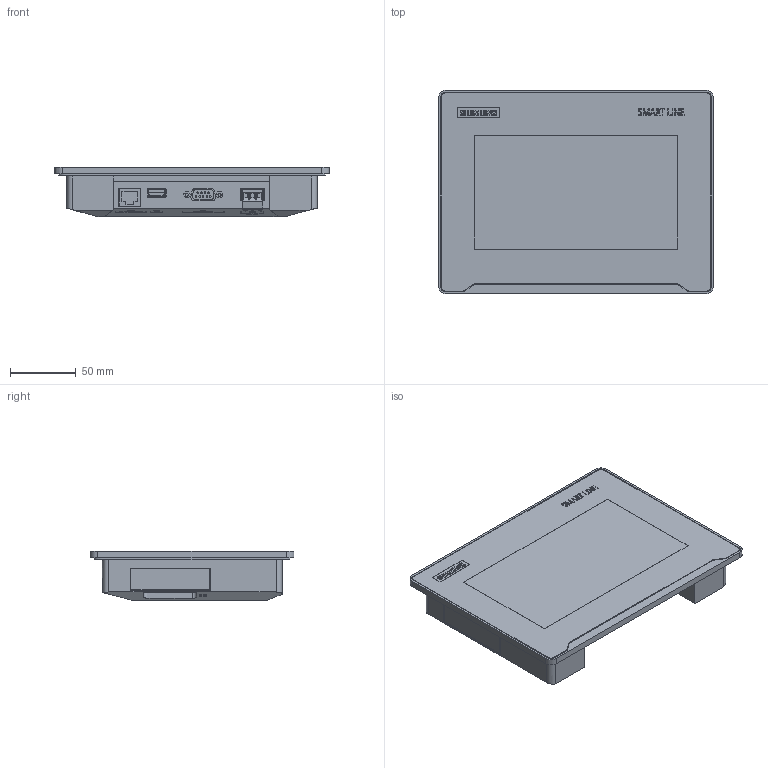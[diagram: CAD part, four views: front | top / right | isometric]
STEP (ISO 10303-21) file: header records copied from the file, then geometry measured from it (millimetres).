
FILE_DESCRIPTION(/* description */ (''),/* implementation_level */ '2;1');
FILE_NAME(/* name */ '6AV6648-0EC11-3AX0_3d.stp',/* time_stamp */ '2025-03-07T06:41:12+01:00',/* author */ (''),/* organization */ (''),/* preprocessor_version */ 'ST-DEVELOPER v18.102',/* originating_system */ 'SIEMENS PLM Software NX 2023',/* authorisation */ '');
FILE_SCHEMA (('AUTOMOTIVE_DESIGN { 1 0 10303 214 3 1 1 1 }'));
Products named in the file (6): A5E54387933A_001; A5E54387313A_001; A5E51764813A_001; A5E54386737A_001; A5E54381984A_001; A5E54419575A_001
Assembly tree (5 placements, depth 2):
  A5E54419575A_001
    A5E54381984A_001
    A5E54386737A_001
    A5E51764813A_001
    A5E54387313A_001
    A5E54387933A_001
Bounding box: 209.38 x 155.38 x 37.74 mm (x, y, z)
Volume: 774545.2 mm3; surface area: 123563.3 mm2
Topology: 113 solids, 113 shells, 1884 faces, 4691 edges, 3119 vertices
Faces by surface type: plane 1443, extrusion 293, cylinder 129, bspline 19
Full cylindrical faces by diameter (mm): 1.14 x9, 1.4 x3, 2.8 x3, 3.409 x3, 3.783 x3, 4 x3, 4.2 x1, 4.6 x1
Entity records: 74482 total; most frequent: CARTESIAN_POINT 22466, ORIENTED_EDGE 9298, DIRECTION 7504, EDGE_CURVE 4649, VECTOR 3690, LINE 3397, VERTEX_POINT 3115, EDGE_LOOP 2076
